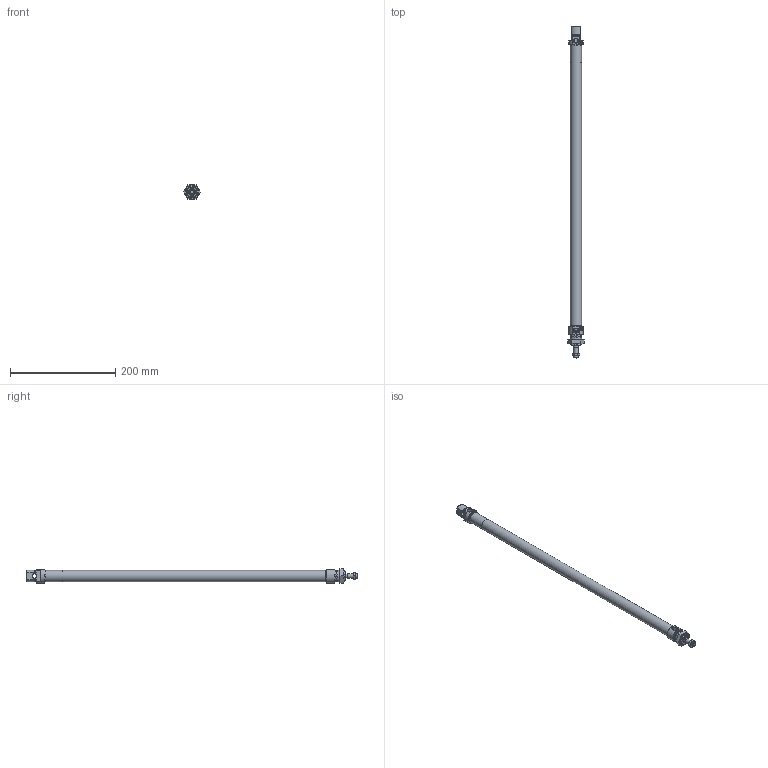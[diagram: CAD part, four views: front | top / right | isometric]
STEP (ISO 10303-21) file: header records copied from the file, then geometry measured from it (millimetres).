
FILE_DESCRIPTION(/* description */ ('Unknown'),/* implementation_level */ '2;1');
FILE_NAME(/* name */ 'RDM 20_500',/* time_stamp */ '2024-08-28T11:03:48+02:00',/* author */ ('Unknown'),/* organization */ ('Unknown'),/* preprocessor_version */ 'ST-DEVELOPER v16.7',/* originating_system */ 'Solid Edge',/* authorisation */ 'Unknown');
FILE_SCHEMA (('AUTOMOTIVE_DESIGN {1 0 10303 214 3 1 1}'));
Length unit declared in the file: millimetre
Products named in the file (7): RDM 20_500; Kit_2; Profilrohr; Kolbenstange; Kit_1; Mutter_1; Mutter_2
Assembly tree (6 placements, depth 2):
  RDM 20_500
    Kit_2
    Profilrohr
    Kolbenstange
    Kit_1
    Mutter_1
    Mutter_2
Bounding box: 31.18 x 631 x 27 mm (x, y, z)
Volume: 90202.7 mm3; surface area: 99227.2 mm2
Topology: 6 solids, 10 shells, 201 faces, 445 edges, 282 vertices
Faces by surface type: plane 77, cone 58, cylinder 55, torus 9, bspline 2
Full cylindrical faces by diameter (mm): 1.75 x2, 1.8 x1, 3.4 x2, 3.5 x2, 6 x1, 6.647 x1, 8 x4, 8.5 x2, 8.56 x2, 8.566 x2, 9.1 x1, 9.5 x1, 12 x2, 12.1 x1, 14.1 x1, 14.2 x1, 19.7 x1, 20 x2, 20.376 x1, 21.27 x1, 22 x2, 22.2 x2
Entity records: 6574 total; most frequent: CARTESIAN_POINT 1153, DIRECTION 844, ORIENTED_EDGE 670, AXIS2_PLACEMENT_3D 375, EDGE_CURVE 335, FACE_BOUND 318, EDGE_LOOP 313, VERTEX_POINT 259
